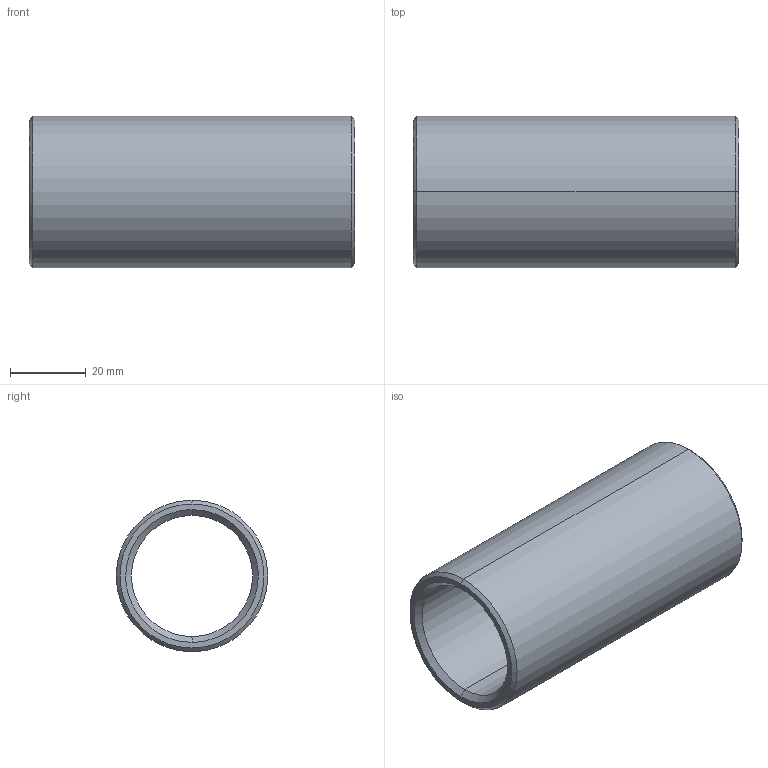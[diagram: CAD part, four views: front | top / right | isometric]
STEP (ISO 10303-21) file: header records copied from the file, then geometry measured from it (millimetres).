
FILE_DESCRIPTION(('CATIA V5 STEP Exchange'),'2;1');
FILE_NAME('C:\Users\Utente\Desktop\IO LAVORO\3D X SITO CF\X SITO\PLASTICA\352\352-32X86.stp','2021-04-14T14:59:04+00:00',('none'),('none'),'CATIA Version 5 Release 20 GA (IN-10)','CATIA V5 STEP AP203','none');
FILE_SCHEMA(('CONFIG_CONTROL_DESIGN'));
Length unit declared in the file: millimetre
Products named in the file (1): 352-32X86
Bounding box: 86 x 40 x 40 mm (x, y, z)
Volume: 38643.4 mm3; surface area: 20079.6 mm2
Topology: 1 solids, 1 shells, 14 faces, 44 edges, 32 vertices
Faces by surface type: cone 6, cylinder 4, plane 2, torus 2
Entity records: 634 total; most frequent: CARTESIAN_POINT 203, ORIENTED_EDGE 88, DIRECTION 64, EDGE_CURVE 44, AXIS2_PLACEMENT_3D 41, VERTEX_POINT 32, CIRCLE 26, EDGE_LOOP 16
